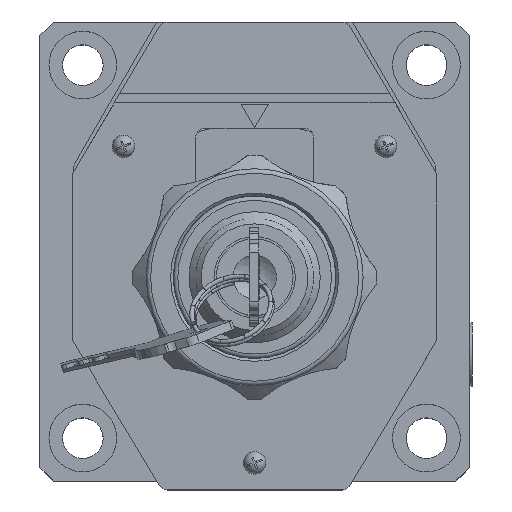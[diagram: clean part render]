
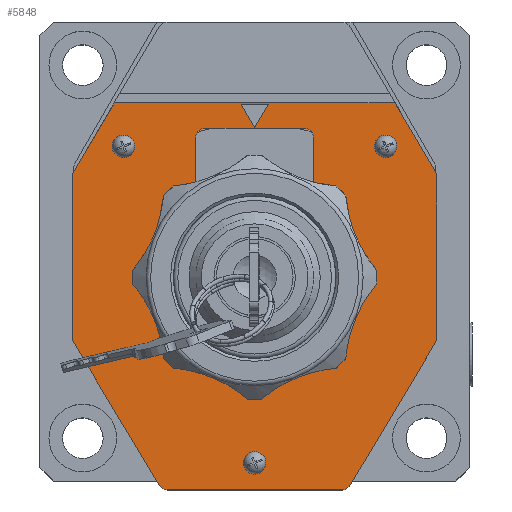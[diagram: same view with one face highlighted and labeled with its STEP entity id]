
A CAD part, top view. The second image highlights one B-rep face of the part: STEP entity #5848.
In plain terms, the highlighted planar face has unit normal (0, 0, 1).
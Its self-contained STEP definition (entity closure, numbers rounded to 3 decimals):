
#2628=LINE('',#38950,#3693);
#2629=LINE('',#38954,#3694);
#2630=LINE('',#38958,#3695);
#2631=LINE('',#38959,#3696);
#2632=LINE('',#38962,#3697);
#2633=LINE('',#38964,#3698);
#2634=LINE('',#38966,#3699);
#2635=LINE('',#38970,#3700);
#2636=LINE('',#38974,#3701);
#2637=LINE('',#38978,#3702);
#2638=LINE('',#38982,#3703);
#3693=VECTOR('',#22546,1.);
#3694=VECTOR('',#22549,1.);
#3695=VECTOR('',#22552,1.);
#3696=VECTOR('',#22553,1.);
#3697=VECTOR('',#22554,1.);
#3698=VECTOR('',#22555,1.);
#3699=VECTOR('',#22556,1.);
#3700=VECTOR('',#22559,1.);
#3701=VECTOR('',#22562,1.);
#3702=VECTOR('',#22565,1.);
#3703=VECTOR('',#22568,1.);
#4210=PLANE('',#18806);
#5848=ADVANCED_FACE('',(#6336,#6337,#6338,#6339,#6340),#4210,.F.);
#6336=FACE_BOUND('',#7336,.T.);
#6337=FACE_BOUND('',#7337,.T.);
#6338=FACE_BOUND('',#7338,.T.);
#6339=FACE_BOUND('',#7339,.T.);
#6340=FACE_BOUND('',#7340,.T.);
#7336=EDGE_LOOP('',(#11398));
#7337=EDGE_LOOP('',(#11399));
#7338=EDGE_LOOP('',(#11400));
#7339=EDGE_LOOP('',(#11401,#11402,#11403,#11404,#11405,#11406));
#7340=EDGE_LOOP('',(#11407,#11408,#11409,#11410,#11411,#11412,#11413,#11414,
#11415,#11416,#11417,#11418));
#11398=ORIENTED_EDGE('',*,*,#16120,.T.);
#11399=ORIENTED_EDGE('',*,*,#16121,.T.);
#11400=ORIENTED_EDGE('',*,*,#16122,.T.);
#11401=ORIENTED_EDGE('',*,*,#16123,.T.);
#11402=ORIENTED_EDGE('',*,*,#16124,.T.);
#11403=ORIENTED_EDGE('',*,*,#16125,.T.);
#11404=ORIENTED_EDGE('',*,*,#16126,.T.);
#11405=ORIENTED_EDGE('',*,*,#16127,.T.);
#11406=ORIENTED_EDGE('',*,*,#16128,.T.);
#11407=ORIENTED_EDGE('',*,*,#16129,.F.);
#11408=ORIENTED_EDGE('',*,*,#16130,.T.);
#11409=ORIENTED_EDGE('',*,*,#16131,.T.);
#11410=ORIENTED_EDGE('',*,*,#16132,.T.);
#11411=ORIENTED_EDGE('',*,*,#16133,.T.);
#11412=ORIENTED_EDGE('',*,*,#16134,.T.);
#11413=ORIENTED_EDGE('',*,*,#16135,.T.);
#11414=ORIENTED_EDGE('',*,*,#16136,.T.);
#11415=ORIENTED_EDGE('',*,*,#16137,.T.);
#11416=ORIENTED_EDGE('',*,*,#16138,.T.);
#11417=ORIENTED_EDGE('',*,*,#16139,.T.);
#11418=ORIENTED_EDGE('',*,*,#16140,.T.);
#13851=VERTEX_POINT('',#38942);
#13852=VERTEX_POINT('',#38944);
#13853=VERTEX_POINT('',#38946);
#13854=VERTEX_POINT('',#38948);
#13855=VERTEX_POINT('',#38949);
#13856=VERTEX_POINT('',#38951);
#13857=VERTEX_POINT('',#38953);
#13858=VERTEX_POINT('',#38955);
#13859=VERTEX_POINT('',#38957);
#13860=VERTEX_POINT('',#38960);
#13861=VERTEX_POINT('',#38961);
#13862=VERTEX_POINT('',#38963);
#13863=VERTEX_POINT('',#38965);
#13864=VERTEX_POINT('',#38967);
#13865=VERTEX_POINT('',#38969);
#13866=VERTEX_POINT('',#38971);
#13867=VERTEX_POINT('',#38973);
#13868=VERTEX_POINT('',#38975);
#13869=VERTEX_POINT('',#38977);
#13870=VERTEX_POINT('',#38979);
#13871=VERTEX_POINT('',#38981);
#16120=EDGE_CURVE('',#13851,#13851,#17347,.T.);
#16121=EDGE_CURVE('',#13852,#13852,#17348,.T.);
#16122=EDGE_CURVE('',#13853,#13853,#17349,.T.);
#16123=EDGE_CURVE('',#13854,#13855,#17350,.T.);
#16124=EDGE_CURVE('',#13855,#13856,#2628,.T.);
#16125=EDGE_CURVE('',#13856,#13857,#17351,.T.);
#16126=EDGE_CURVE('',#13857,#13858,#2629,.T.);
#16127=EDGE_CURVE('',#13858,#13859,#17352,.T.);
#16128=EDGE_CURVE('',#13859,#13854,#2630,.T.);
#16129=EDGE_CURVE('',#13860,#13861,#2631,.T.);
#16130=EDGE_CURVE('',#13860,#13862,#2632,.T.);
#16131=EDGE_CURVE('',#13862,#13863,#2633,.T.);
#16132=EDGE_CURVE('',#13863,#13864,#2634,.T.);
#16133=EDGE_CURVE('',#13864,#13865,#17353,.T.);
#16134=EDGE_CURVE('',#13865,#13866,#2635,.T.);
#16135=EDGE_CURVE('',#13866,#13867,#17354,.T.);
#16136=EDGE_CURVE('',#13867,#13868,#2636,.T.);
#16137=EDGE_CURVE('',#13868,#13869,#17355,.T.);
#16138=EDGE_CURVE('',#13869,#13870,#2637,.T.);
#16139=EDGE_CURVE('',#13870,#13871,#17356,.T.);
#16140=EDGE_CURVE('',#13871,#13861,#2638,.T.);
#17347=CIRCLE('',#18796,1.5);
#17348=CIRCLE('',#18797,1.5);
#17349=CIRCLE('',#18798,1.5);
#17350=CIRCLE('',#18799,20.5);
#17351=CIRCLE('',#18800,2.);
#17352=CIRCLE('',#18801,2.);
#17353=CIRCLE('',#18802,2.);
#17354=CIRCLE('',#18803,2.);
#17355=CIRCLE('',#18804,2.);
#17356=CIRCLE('',#18805,2.);
#18796=AXIS2_PLACEMENT_3D('',#38941,#22538,#22539);
#18797=AXIS2_PLACEMENT_3D('',#38943,#22540,#22541);
#18798=AXIS2_PLACEMENT_3D('',#38945,#22542,#22543);
#18799=AXIS2_PLACEMENT_3D('',#38947,#22544,#22545);
#18800=AXIS2_PLACEMENT_3D('',#38952,#22547,#22548);
#18801=AXIS2_PLACEMENT_3D('',#38956,#22550,#22551);
#18802=AXIS2_PLACEMENT_3D('',#38968,#22557,#22558);
#18803=AXIS2_PLACEMENT_3D('',#38972,#22560,#22561);
#18804=AXIS2_PLACEMENT_3D('',#38976,#22563,#22564);
#18805=AXIS2_PLACEMENT_3D('',#38980,#22566,#22567);
#18806=AXIS2_PLACEMENT_3D('',#38983,#22569,#22570);
#22538=DIRECTION('',(0.,0.,-1.));
#22539=DIRECTION('',(1.,0.,0.));
#22540=DIRECTION('',(0.,0.,-1.));
#22541=DIRECTION('',(1.,0.,0.));
#22542=DIRECTION('',(0.,0.,-1.));
#22543=DIRECTION('',(1.,0.,0.));
#22544=DIRECTION('',(0.,0.,-1.));
#22545=DIRECTION('',(1.,0.,0.));
#22546=DIRECTION('',(0.,1.,0.));
#22547=DIRECTION('',(0.,0.,-1.));
#22548=DIRECTION('',(-1.,0.,0.));
#22549=DIRECTION('',(1.,0.,0.));
#22550=DIRECTION('',(0.,0.,-1.));
#22551=DIRECTION('',(-1.,0.,0.));
#22552=DIRECTION('',(0.,-1.,0.));
#22553=DIRECTION('',(1.,0.,0.));
#22554=DIRECTION('',(-0.508,-0.861,0.));
#22555=DIRECTION('',(0.,-1.,0.));
#22556=DIRECTION('',(0.514,-0.858,0.));
#22557=DIRECTION('',(0.,0.,1.));
#22558=DIRECTION('',(1.,0.,0.));
#22559=DIRECTION('',(1.,0.,0.));
#22560=DIRECTION('',(0.,0.,1.));
#22561=DIRECTION('',(1.,0.,0.));
#22562=DIRECTION('',(0.514,0.858,0.));
#22563=DIRECTION('',(0.,0.,1.));
#22564=DIRECTION('',(1.,0.,0.));
#22565=DIRECTION('',(0.,1.,0.));
#22566=DIRECTION('',(0.,0.,1.));
#22567=DIRECTION('',(1.,0.,0.));
#22568=DIRECTION('',(-0.508,0.861,0.));
#22569=DIRECTION('',(0.,0.,-1.));
#22570=DIRECTION('',(1.,0.,0.));
#38941=CARTESIAN_POINT('',(5.331,121.077,8.));
#38942=CARTESIAN_POINT('',(6.831,121.077,8.));
#38943=CARTESIAN_POINT('',(34.322,51.086,8.));
#38944=CARTESIAN_POINT('',(35.822,51.086,8.));
#38945=CARTESIAN_POINT('',(63.314,121.077,8.));
#38946=CARTESIAN_POINT('',(64.814,121.077,8.));
#38947=CARTESIAN_POINT('',(34.322,92.086,8.));
#38948=CARTESIAN_POINT('',(47.322,107.937,8.));
#38949=CARTESIAN_POINT('',(21.322,107.937,8.));
#38950=CARTESIAN_POINT('',(21.322,125.086,8.));
#38951=CARTESIAN_POINT('',(21.322,123.086,8.));
#38952=CARTESIAN_POINT('',(23.322,123.086,8.));
#38953=CARTESIAN_POINT('',(23.322,125.086,8.));
#38954=CARTESIAN_POINT('',(47.322,125.086,8.));
#38955=CARTESIAN_POINT('',(45.322,125.086,8.));
#38956=CARTESIAN_POINT('',(45.322,123.086,8.));
#38957=CARTESIAN_POINT('',(47.322,123.086,8.));
#38958=CARTESIAN_POINT('',(47.322,107.937,8.));
#38959=CARTESIAN_POINT('',(2.717,130.674,8.));
#38960=CARTESIAN_POINT('',(3.262,130.674,8.));
#38961=CARTESIAN_POINT('',(65.382,130.674,8.));
#38962=CARTESIAN_POINT('',(-5.928,115.086,8.));
#38963=CARTESIAN_POINT('',(-5.928,115.086,8.));
#38964=CARTESIAN_POINT('',(-5.928,78.086,8.));
#38965=CARTESIAN_POINT('',(-5.928,78.086,8.));
#38966=CARTESIAN_POINT('',(13.24,46.059,8.));
#38967=CARTESIAN_POINT('',(13.24,46.059,8.));
#38968=CARTESIAN_POINT('',(14.956,47.086,8.));
#38969=CARTESIAN_POINT('',(14.956,45.086,8.));
#38970=CARTESIAN_POINT('',(53.688,45.086,8.));
#38971=CARTESIAN_POINT('',(53.688,45.086,8.));
#38972=CARTESIAN_POINT('',(53.688,47.086,8.));
#38973=CARTESIAN_POINT('',(55.405,46.059,8.));
#38974=CARTESIAN_POINT('',(74.288,77.612,8.));
#38975=CARTESIAN_POINT('',(74.288,77.612,8.));
#38976=CARTESIAN_POINT('',(72.572,78.639,8.));
#38977=CARTESIAN_POINT('',(74.572,78.639,8.));
#38978=CARTESIAN_POINT('',(74.572,114.54,8.));
#38979=CARTESIAN_POINT('',(74.572,114.54,8.));
#38980=CARTESIAN_POINT('',(72.572,114.54,8.));
#38981=CARTESIAN_POINT('',(74.295,115.556,8.));
#38982=CARTESIAN_POINT('',(55.403,147.602,8.));
#38983=CARTESIAN_POINT('',(14.965,146.586,8.));
